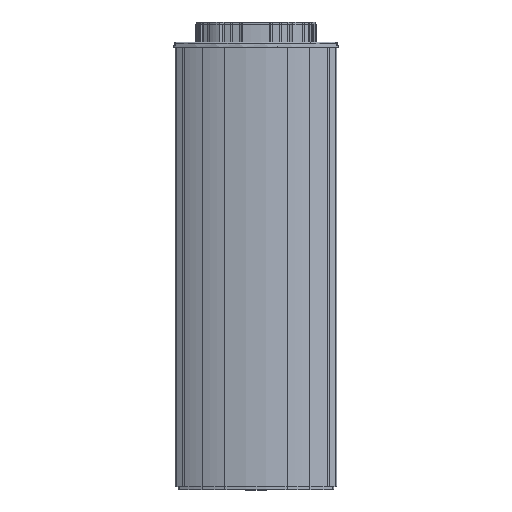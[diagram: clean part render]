
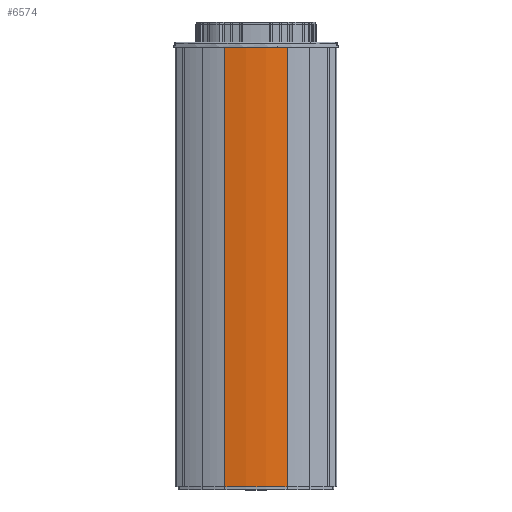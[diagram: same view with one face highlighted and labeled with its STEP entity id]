
A CAD part, top view. The second image highlights one B-rep face of the part: STEP entity #6574.
In plain terms, the highlighted cylindrical face has radius 185.6 mm (diameter 371.2 mm), a partial arc.
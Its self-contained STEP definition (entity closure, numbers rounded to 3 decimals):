
#896 = VERTEX_POINT ( 'NONE', #40108 ) ;
#904 = EDGE_CURVE ( 'NONE', #896, #905, #40094, .T. ) ;
#905 = VERTEX_POINT ( 'NONE', #40088 ) ;
#3465 = VERTEX_POINT ( 'NONE', #44912 ) ;
#3469 = EDGE_CURVE ( 'NONE', #3531, #3465, #44907, .T. ) ;
#3531 = VERTEX_POINT ( 'NONE', #45019 ) ;
#6438 = EDGE_LOOP ( 'NONE', ( #6439, #6440, #6541, #6542 ) ) ;
#6439 = ORIENTED_EDGE ( 'NONE', *, *, #3469, .T. ) ;
#6440 = ORIENTED_EDGE ( 'NONE', *, *, #6539, .F. ) ;
#6539 = EDGE_CURVE ( 'NONE', #905, #3465, #49541, .T. ) ;
#6541 = ORIENTED_EDGE ( 'NONE', *, *, #904, .F. ) ;
#6542 = ORIENTED_EDGE ( 'NONE', *, *, #6567, .T. ) ;
#6567 = EDGE_CURVE ( 'NONE', #896, #3531, #49584, .T. ) ;
#6574 = ADVANCED_FACE ( 'NONE', ( #49577 ), #49575, .T. ) ;
#40088 = CARTESIAN_POINT ( 'NONE',  ( 37.933, 38.434, 547. ) ) ;
#40089 = DIRECTION ( 'NONE',  ( 1., 0., 0. ) ) ;
#40090 = DIRECTION ( 'NONE',  ( 0., 0., 1. ) ) ;
#40091 = CARTESIAN_POINT ( 'NONE',  ( -143.644, 0., 547. ) ) ;
#40093 = AXIS2_PLACEMENT_3D ( 'NONE', #40091, #40090, #40089 ) ;
#40094 = CIRCLE ( 'NONE', #40093, 185.6 ) ;
#40108 = CARTESIAN_POINT ( 'NONE',  ( 37.933, -38.434, 547. ) ) ;
#44903 = DIRECTION ( 'NONE',  ( 1., 0., 0. ) ) ;
#44904 = DIRECTION ( 'NONE',  ( 0., 0., 1. ) ) ;
#44905 = CARTESIAN_POINT ( 'NONE',  ( -143.644, 0., 0. ) ) ;
#44906 = AXIS2_PLACEMENT_3D ( 'NONE', #44905, #44904, #44903 ) ;
#44907 = CIRCLE ( 'NONE', #44906, 185.6 ) ;
#44912 = CARTESIAN_POINT ( 'NONE',  ( 37.933, 38.434, 0. ) ) ;
#45019 = CARTESIAN_POINT ( 'NONE',  ( 37.933, -38.434, 0. ) ) ;
#49538 = DIRECTION ( 'NONE',  ( 0., 0., -1. ) ) ;
#49539 = VECTOR ( 'NONE', #49538, 1000. ) ;
#49540 = CARTESIAN_POINT ( 'NONE',  ( 37.933, 38.434, 547. ) ) ;
#49541 = LINE ( 'NONE', #49540, #49539 ) ;
#49571 = DIRECTION ( 'NONE',  ( -1., 0., 0. ) ) ;
#49572 = DIRECTION ( 'NONE',  ( 0., 0., -1. ) ) ;
#49573 = CARTESIAN_POINT ( 'NONE',  ( -143.644, 0., 547. ) ) ;
#49574 = AXIS2_PLACEMENT_3D ( 'NONE', #49573, #49572, #49571 ) ;
#49575 = CYLINDRICAL_SURFACE ( 'NONE', #49574, 185.6 ) ;
#49577 = FACE_OUTER_BOUND ( 'NONE', #6438, .T. ) ;
#49578 = DIRECTION ( 'NONE',  ( 0., 0., -1. ) ) ;
#49579 = VECTOR ( 'NONE', #49578, 1000. ) ;
#49580 = CARTESIAN_POINT ( 'NONE',  ( 37.933, -38.434, 547. ) ) ;
#49584 = LINE ( 'NONE', #49580, #49579 ) ;
